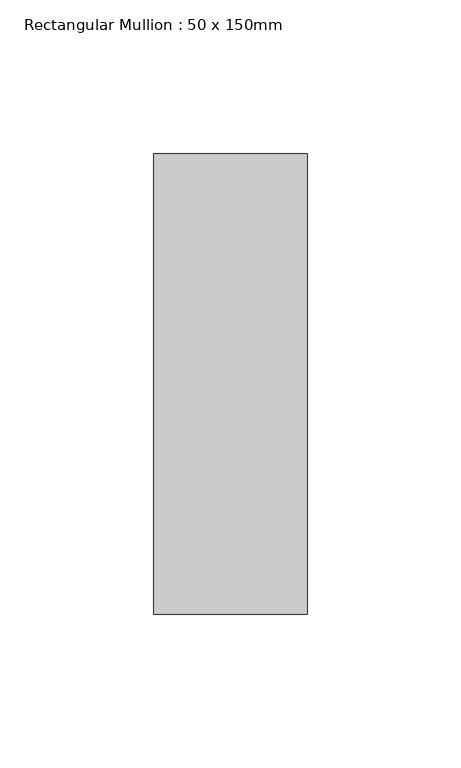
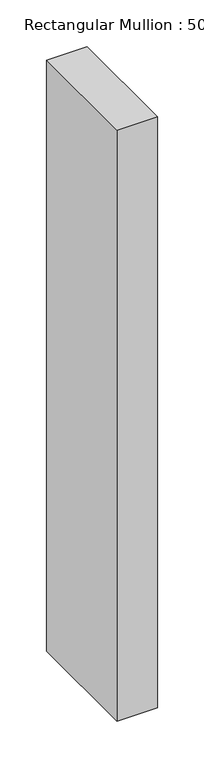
"""IFC4 building model written with IfcOpenShell, lengths in millimetres: member geometry, Rectangular Mullion : 50 x 150mm."""

from ifc_helpers import new_model, si_unit, frame, origin, place, context, project, spatial, polyline, outline, extrude, source, transform, mapped, element, save


def rectangular_mullion_50_x_150mm_9cd8519f(model_context):
    return source(origin(), model_context, "Body", "SweptSolid", [
        extrude(outline(polyline([(25.0, 75.0), (25.0, -75.0), (-25.0, -75.0), (-25.0, 75.0), (25.0, 75.0)])), frame((0.0, 0.0, -770.4891274), z_axis=(0.0, 0.0, 1.0), x_axis=(1.0, 0.0, 0.0)), (0.0, 0.0, 1.0), 770.4891274),
    ])


if __name__ == "__main__":
    model = new_model("IFC4")
    model_context = context("Model", 3, world=origin())
    ifc_project = project(units=[si_unit("LENGTHUNIT", "METRE", prefix="MILLI")], contexts=[model_context])
    site = spatial("IfcSite", under=ifc_project)
    building = spatial("IfcBuilding", under=site)
    placement = place(None, origin())
    rectangular_mullion_50_x_150mm_shape = rectangular_mullion_50_x_150mm_9cd8519f(model_context)
    element("IfcMember", 1, ObjectType="Rectangular Mullion : 50 x 150mm", at=placement, inside=building, context=model_context, shape_type="MappedRepresentation", body=[
        mapped(rectangular_mullion_50_x_150mm_shape, transform((0.0, 0.0, 0.0), x_axis=(1.0, 0.0, 0.0), y_axis=(0.0, 1.0, 0.0), z_axis=(0.0, 0.0, 1.0))),
    ])
    save(model, "model.ifc")
